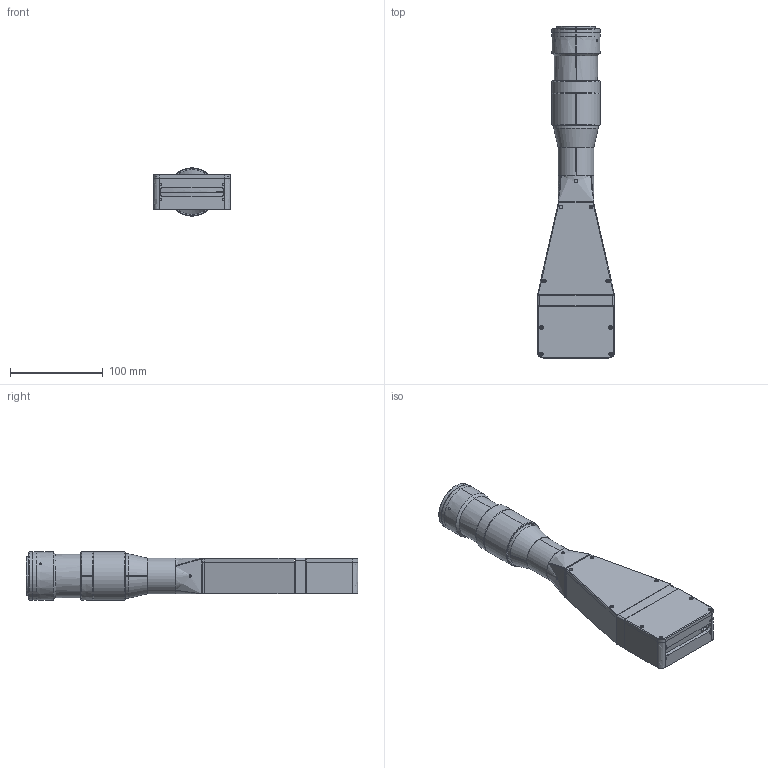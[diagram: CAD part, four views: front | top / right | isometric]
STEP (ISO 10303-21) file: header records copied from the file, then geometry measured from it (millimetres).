
FILE_DESCRIPTION(('LS-TCL-0282'),'2;1');
FILE_NAME('LS-TCL-0282.stp','2026-10-15T21:55:19',('LumaSpec Vision'),('LumaSpec Vision'),'LumaSpec Vision','LumaSpec Vision','');
FILE_SCHEMA(('AUTOMOTIVE_DESIGN { 1 0 10303 214 1 1 1 1 }'));
Length unit declared in the file: millimetre
Products named in the file (244): LumaSpec Vision
Assembly tree (243 placements, depth 2):
  LumaSpec Vision
    LumaSpec Vision
    LumaSpec Vision
    LumaSpec Vision
    LumaSpec Vision
    LumaSpec Vision
    LumaSpec Vision
    LumaSpec Vision
    LumaSpec Vision
    LumaSpec Vision
    LumaSpec Vision
    LumaSpec Vision
    LumaSpec Vision
    LumaSpec Vision
    LumaSpec Vision
    LumaSpec Vision
    LumaSpec Vision
    LumaSpec Vision
    LumaSpec Vision
    LumaSpec Vision
    LumaSpec Vision
    LumaSpec Vision
    LumaSpec Vision
    LumaSpec Vision
    LumaSpec Vision
    LumaSpec Vision
    LumaSpec Vision
    LumaSpec Vision
    LumaSpec Vision
    LumaSpec Vision
    LumaSpec Vision
    LumaSpec Vision
    LumaSpec Vision
    LumaSpec Vision
    LumaSpec Vision
    LumaSpec Vision
    LumaSpec Vision
    LumaSpec Vision
    LumaSpec Vision
    LumaSpec Vision
    LumaSpec Vision
    LumaSpec Vision
    LumaSpec Vision
    LumaSpec Vision
    LumaSpec Vision
    LumaSpec Vision
    LumaSpec Vision
    LumaSpec Vision
    LumaSpec Vision
    LumaSpec Vision
    LumaSpec Vision
    LumaSpec Vision
    LumaSpec Vision
    LumaSpec Vision
    LumaSpec Vision
    LumaSpec Vision
    LumaSpec Vision
    LumaSpec Vision
    LumaSpec Vision
    LumaSpec Vision
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Bounding box: 83 x 358.61 x 52 mm (x, y, z)
Surface area: 79516.5 mm2 (no closed solid volume)
Topology: 0 solids, 243 shells, 243 faces, 3661 edges, 3650 vertices
Faces by surface type: revolution 126, bspline 117
Entity records: 62345 total; most frequent: CARTESIAN_POINT 24627, B_SPLINE_CURVE_WITH_KNOTS 6315, ORIENTED_EDGE 3650, EDGE_CURVE 3650, VERTEX_POINT 3650, SURFACE_CURVE 3650, PCURVE 3650, DEFINITIONAL_REPRESENTATION 3650
